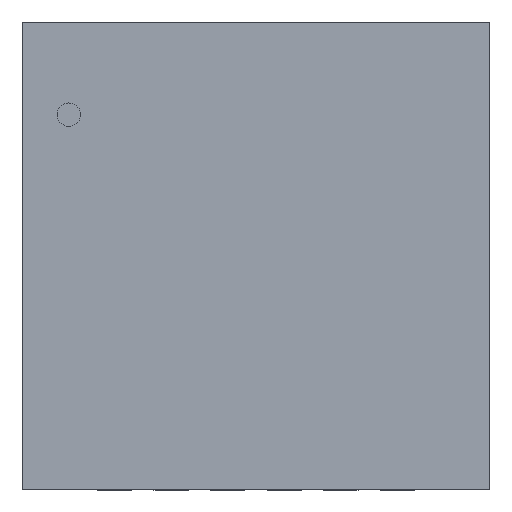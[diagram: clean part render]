
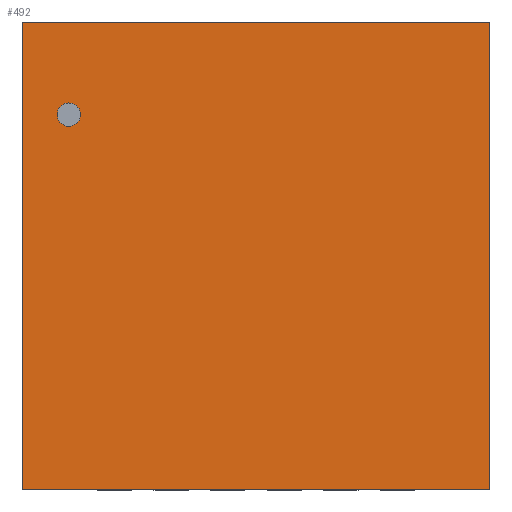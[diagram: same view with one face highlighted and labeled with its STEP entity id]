
A CAD part, top view. The second image highlights one B-rep face of the part: STEP entity #492.
In plain terms, the highlighted planar face has unit normal (0, 0, 1).
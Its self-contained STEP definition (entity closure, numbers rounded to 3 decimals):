
#268=CARTESIAN_POINT('',(2.07,-2.07,1.651));
#267=VERTEX_POINT('',#268);
#278=CARTESIAN_POINT('',(-2.07,-2.07,1.651));
#277=VERTEX_POINT('',#278);
#276=EDGE_CURVE('',#277,#267,#281,.T.);
#281=LINE('',#278,#283);
#283=VECTOR('',#284,4.14);
#284=DIRECTION('',(1.0,0.0,0.0));
#317=CARTESIAN_POINT('',(2.07,2.07,1.651));
#316=VERTEX_POINT('',#317);
#325=EDGE_CURVE('',#267,#316,#330,.T.);
#330=LINE('',#268,#332);
#332=VECTOR('',#333,4.14);
#333=DIRECTION('',(0.0,1.0,0.0));
#366=CARTESIAN_POINT('',(-2.07,2.07,1.651));
#365=VERTEX_POINT('',#366);
#374=EDGE_CURVE('',#316,#365,#379,.T.);
#379=LINE('',#317,#381);
#381=VECTOR('',#382,4.14);
#382=DIRECTION('',(-1.0,0.0,0.0));
#423=EDGE_CURVE('',#365,#277,#428,.T.);
#428=LINE('',#366,#430);
#430=VECTOR('',#431,4.14);
#431=DIRECTION('',(0.0,-1.0,0.0));
#492=ADVANCED_FACE('',(#498),#493,.T.);
#493=PLANE('',#494);
#494=AXIS2_PLACEMENT_3D('',#495,#496,#497);
#495=CARTESIAN_POINT('',(-2.07,-2.07,1.651));
#496=DIRECTION('',(0.0,0.0,1.0));
#497=DIRECTION('',(0.,1.,0.));
#498=FACE_OUTER_BOUND('',#499,.T.);
#499=EDGE_LOOP('',(#500,#510,#520,#530));
#500=ORIENTED_EDGE('',*,*,#276,.T.);
#510=ORIENTED_EDGE('',*,*,#325,.T.);
#520=ORIENTED_EDGE('',*,*,#374,.T.);
#530=ORIENTED_EDGE('',*,*,#423,.T.);
